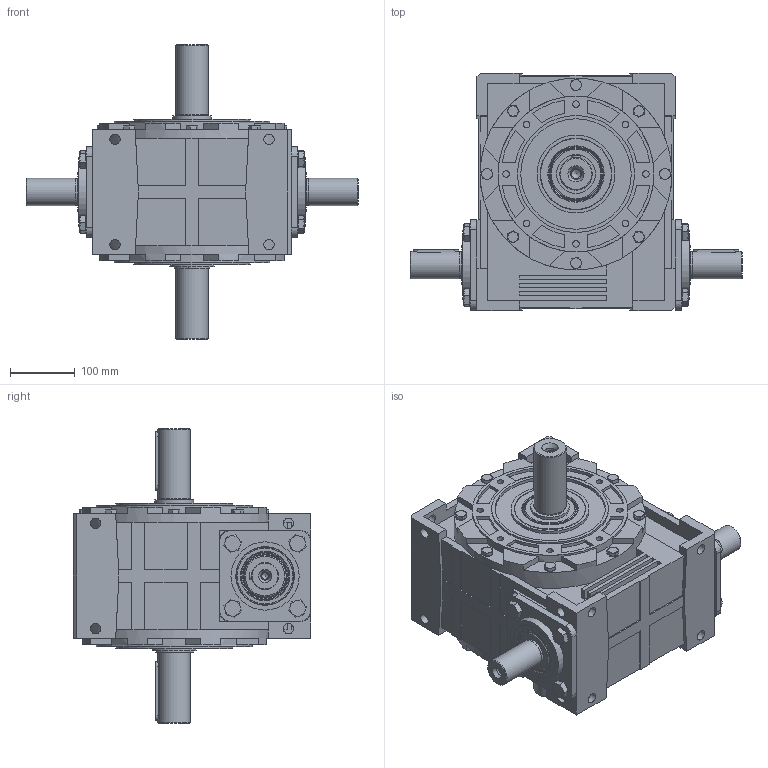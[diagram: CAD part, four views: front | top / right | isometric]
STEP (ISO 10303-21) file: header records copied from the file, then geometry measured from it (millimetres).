
FILE_DESCRIPTION (( 'STEP AP203' ), '1' );
FILE_NAME ('R-140_WBS2_WD_3D.STEP', '2018-11-13T11:39:05', ( 'Biuro' ), ( 'Microsoft' ), 'SwSTEP 2.0', 'SolidWorks 2013', '' );
FILE_SCHEMA (( 'CONFIG_CONTROL_DESIGN' ));
Length unit declared in the file: millimetre
Products named in the file (1): R-140_WBS2_WD_3D
Bounding box: 511 x 365 x 454 mm (x, y, z)
Volume: 21535875.3 mm3; surface area: 855622.9 mm2
Topology: 1 solids, 22 shells, 1046 faces, 2504 edges, 1570 vertices
Faces by surface type: plane 626, cylinder 208, cone 160, torus 50, bspline 2
Full cylindrical faces by diameter (mm): 2.5 x2, 10 x24, 10.2 x2, 10.5 x8, 13 x2, 14 x2, 16 x28, 17 x10, 24 x8, 37 x1, 41.2 x1, 41.4 x1, 42 x2, 47 x1, 49.4 x1, 49.5 x1, 49.6 x1, 50 x5, 50.2 x1, 53 x1, 60 x1, 64.95 x2, 65 x3, 68 x1, 70.861 x2, 86 x2, 90 x4, 105 x2, 110 x2, 120 x2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
Entity records: 29667 total; most frequent: CARTESIAN_POINT 6615, DIRECTION 4820, ORIENTED_EDGE 4358, EDGE_CURVE 2179, AXIS2_PLACEMENT_3D 1806, VERTEX_POINT 1469, EDGE_LOOP 1410, FACE_OUTER_BOUND 1213
